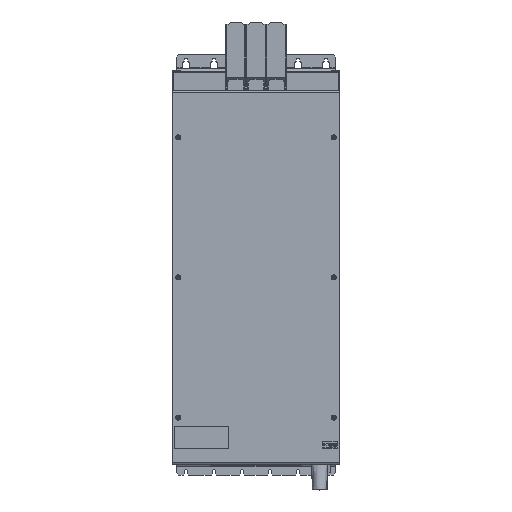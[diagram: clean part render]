
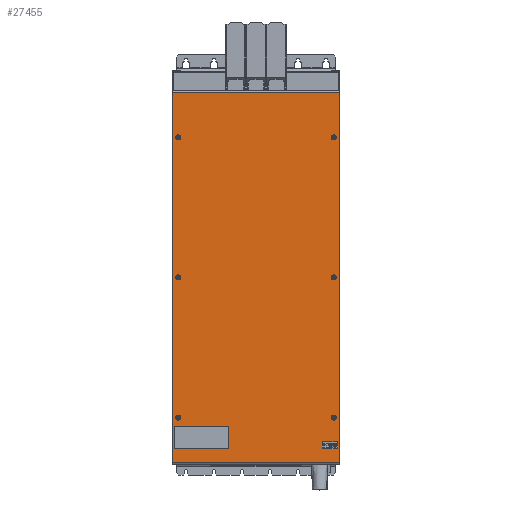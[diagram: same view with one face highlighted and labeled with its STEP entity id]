
A CAD part, top view. The second image highlights one B-rep face of the part: STEP entity #27455.
In plain terms, the highlighted planar face has unit normal (0, 0, 1).
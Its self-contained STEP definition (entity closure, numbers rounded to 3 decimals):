
#4765 = CARTESIAN_POINT ( 'NONE',  ( 0., -728.5, 264.5 ) ) ;
#4918 = CARTESIAN_POINT ( 'NONE',  ( 0., -67., 264.5 ) ) ;
#4919 = DIRECTION ( 'NONE',  ( 0., -1., 0. ) ) ;
#4920 = VECTOR ( 'NONE', #4919, 1000. ) ;
#4921 = CARTESIAN_POINT ( 'NONE',  ( 0., -67., 264.5 ) ) ;
#4922 = LINE ( 'NONE', #4921, #4920 ) ;
#4972 = CARTESIAN_POINT ( 'NONE',  ( 299., -67., 264.5 ) ) ;
#5090 = DIRECTION ( 'NONE',  ( 1., 0., 0. ) ) ;
#5091 = VECTOR ( 'NONE', #5090, 1000. ) ;
#5092 = CARTESIAN_POINT ( 'NONE',  ( 0., -728.5, 264.5 ) ) ;
#5093 = LINE ( 'NONE', #5092, #5091 ) ;
#5094 = DIRECTION ( 'NONE',  ( 0., 1., 0. ) ) ;
#5095 = DIRECTION ( 'NONE',  ( 0., 0., 1. ) ) ;
#5096 = CARTESIAN_POINT ( 'NONE',  ( 0., -67., 264.5 ) ) ;
#5097 = AXIS2_PLACEMENT_3D ( 'NONE', #5096, #5095, #5094 ) ;
#5098 = PLANE ( 'NONE',  #5097 ) ;
#5168 = FACE_OUTER_BOUND ( 'NONE', #27456, .T. ) ;
#5174 = CARTESIAN_POINT ( 'NONE',  ( 299., -728.5, 264.5 ) ) ;
#5175 = DIRECTION ( 'NONE',  ( 0., 1., 0. ) ) ;
#5176 = VECTOR ( 'NONE', #5175, 1000. ) ;
#5177 = CARTESIAN_POINT ( 'NONE',  ( 299., -67., 264.5 ) ) ;
#5178 = LINE ( 'NONE', #5177, #5176 ) ;
#5813 = DIRECTION ( 'NONE',  ( -1., 0., 0. ) ) ;
#5814 = VECTOR ( 'NONE', #5813, 1000. ) ;
#5825 = CARTESIAN_POINT ( 'NONE',  ( 0., -67., 264.5 ) ) ;
#5826 = LINE ( 'NONE', #5825, #5814 ) ;
#27360 = VERTEX_POINT ( 'NONE', #4765 ) ;
#27362 = EDGE_CURVE ( 'NONE', #27363, #27360, #4922, .T. ) ;
#27363 = VERTEX_POINT ( 'NONE', #4918 ) ;
#27381 = VERTEX_POINT ( 'NONE', #4972 ) ;
#27451 = EDGE_CURVE ( 'NONE', #27452, #27381, #5178, .T. ) ;
#27452 = VERTEX_POINT ( 'NONE', #5174 ) ;
#27455 = ADVANCED_FACE ( 'NONE', ( #5168 ), #5098, .T. ) ;
#27456 = EDGE_LOOP ( 'NONE', ( #27457, #27458, #27460, #27702 ) ) ;
#27457 = ORIENTED_EDGE ( 'NONE', *, *, #27362, .T. ) ;
#27458 = ORIENTED_EDGE ( 'NONE', *, *, #27459, .T. ) ;
#27459 = EDGE_CURVE ( 'NONE', #27360, #27452, #5093, .T. ) ;
#27460 = ORIENTED_EDGE ( 'NONE', *, *, #27451, .T. ) ;
#27702 = ORIENTED_EDGE ( 'NONE', *, *, #27703, .T. ) ;
#27703 = EDGE_CURVE ( 'NONE', #27381, #27363, #5826, .T. ) ;
